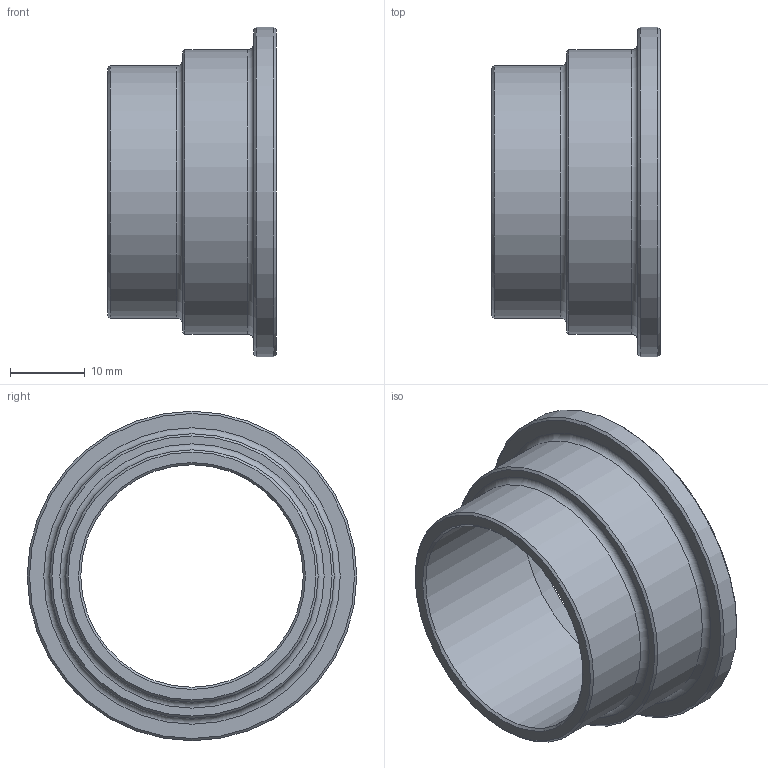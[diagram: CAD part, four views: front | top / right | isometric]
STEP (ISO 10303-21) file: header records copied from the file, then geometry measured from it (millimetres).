
FILE_DESCRIPTION(/* description */ (''),/* implementation_level */ '2;1');
FILE_NAME(/* name */ 'C:\Users\cad\Desktop\Zeichnungen neu von Ralph\3D_Kupplung_R666-SE\3D_R666-SE-33.7-DN40_17113351.stp',/* time_stamp */ '2021-06-18T08:34:03+02:00',/* author */ ('cad'),/* organization */ (''),/* preprocessor_version */ 'ST-DEVELOPER v18.1',/* originating_system */ 'Autodesk Inventor 2022',/* authorisation */ '');
FILE_SCHEMA (('AUTOMOTIVE_DESIGN { 1 0 10303 214 3 1 1 }'));
Length unit declared in the file: millimetre
Products named in the file (1): 3D_R666-SE-33.7-DN40_17113351
Bounding box: 22.5 x 44 x 44 mm (x, y, z)
Volume: 8280.6 mm3; surface area: 6048.3 mm2
Topology: 1 solids, 1 shells, 16 faces, 35 edges, 23 vertices
Faces by surface type: cone 6, cylinder 4, plane 4, torus 2
Full cylindrical faces by diameter (mm): 29.7 x1, 33.7 x1, 38 x1, 44 x1
Entity records: 501 total; most frequent: DIRECTION 94, CARTESIAN_POINT 75, ORIENTED_EDGE 70, AXIS2_PLACEMENT_3D 42, EDGE_CURVE 35, CIRCLE 25, VERTEX_POINT 23, EDGE_LOOP 20
